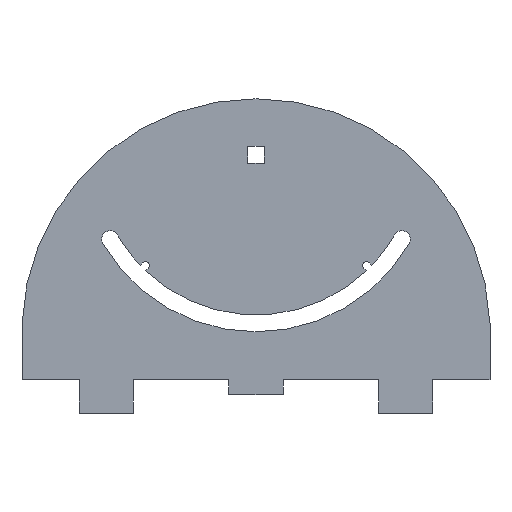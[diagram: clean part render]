
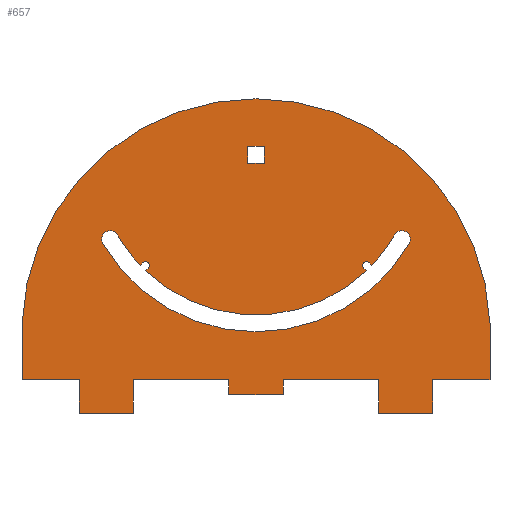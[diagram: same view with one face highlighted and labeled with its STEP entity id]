
A CAD part, front view. The second image highlights one B-rep face of the part: STEP entity #657.
In plain terms, the highlighted planar face has unit normal (0, -1, 0).
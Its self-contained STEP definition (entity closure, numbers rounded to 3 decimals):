
#15=FACE_BOUND('',#87,.T.);
#16=FACE_BOUND('',#88,.T.);
#20=CIRCLE('',#711,2.);
#22=CIRCLE('',#714,2.);
#23=CIRCLE('',#719,125.104);
#24=CIRCLE('',#720,85.476);
#25=CIRCLE('',#721,4.5);
#26=CIRCLE('',#722,94.476);
#27=CIRCLE('',#723,4.5);
#28=CIRCLE('',#724,85.476);
#29=CIRCLE('',#725,85.476);
#52=FACE_OUTER_BOUND('',#86,.T.);
#86=EDGE_LOOP('',(#458,#459,#460,#461,#462,#463,#464,#465,#466,#467,#468,
#469,#470,#471,#472,#473));
#87=EDGE_LOOP('',(#474,#475,#476,#477));
#88=EDGE_LOOP('',(#478,#479,#480,#481,#482,#483,#484,#485,#486,#487,#488,
#489));
#121=LINE('',#953,#199);
#127=LINE('',#974,#205);
#128=LINE('',#977,#206);
#131=LINE('',#983,#209);
#134=LINE('',#990,#212);
#135=LINE('',#992,#213);
#136=LINE('',#996,#214);
#137=LINE('',#998,#215);
#138=LINE('',#1000,#216);
#139=LINE('',#1002,#217);
#140=LINE('',#1004,#218);
#141=LINE('',#1006,#219);
#142=LINE('',#1008,#220);
#143=LINE('',#1010,#221);
#144=LINE('',#1012,#222);
#145=LINE('',#1014,#223);
#146=LINE('',#1016,#224);
#147=LINE('',#1018,#225);
#148=LINE('',#1019,#226);
#149=LINE('',#1022,#227);
#150=LINE('',#1024,#228);
#151=LINE('',#1026,#229);
#152=LINE('',#1027,#230);
#199=VECTOR('',#767,10.);
#205=VECTOR('',#787,10.);
#206=VECTOR('',#790,10.);
#209=VECTOR('',#795,10.);
#212=VECTOR('',#800,10.);
#213=VECTOR('',#801,10.);
#214=VECTOR('',#804,10.);
#215=VECTOR('',#805,10.);
#216=VECTOR('',#806,10.);
#217=VECTOR('',#807,10.);
#218=VECTOR('',#808,10.);
#219=VECTOR('',#809,10.);
#220=VECTOR('',#810,10.);
#221=VECTOR('',#811,10.);
#222=VECTOR('',#812,10.);
#223=VECTOR('',#813,10.);
#224=VECTOR('',#814,10.);
#225=VECTOR('',#815,10.);
#226=VECTOR('',#816,10.);
#227=VECTOR('',#817,10.);
#228=VECTOR('',#818,10.);
#229=VECTOR('',#819,10.);
#230=VECTOR('',#820,10.);
#275=VERTEX_POINT('',#947);
#277=VERTEX_POINT('',#951);
#279=VERTEX_POINT('',#957);
#282=VERTEX_POINT('',#964);
#283=VERTEX_POINT('',#966);
#285=VERTEX_POINT('',#972);
#286=VERTEX_POINT('',#976);
#288=VERTEX_POINT('',#982);
#290=VERTEX_POINT('',#988);
#291=VERTEX_POINT('',#989);
#292=VERTEX_POINT('',#991);
#293=VERTEX_POINT('',#993);
#294=VERTEX_POINT('',#995);
#295=VERTEX_POINT('',#997);
#296=VERTEX_POINT('',#999);
#297=VERTEX_POINT('',#1001);
#298=VERTEX_POINT('',#1003);
#299=VERTEX_POINT('',#1005);
#300=VERTEX_POINT('',#1007);
#301=VERTEX_POINT('',#1009);
#302=VERTEX_POINT('',#1011);
#303=VERTEX_POINT('',#1013);
#304=VERTEX_POINT('',#1015);
#305=VERTEX_POINT('',#1017);
#306=VERTEX_POINT('',#1020);
#307=VERTEX_POINT('',#1021);
#308=VERTEX_POINT('',#1023);
#309=VERTEX_POINT('',#1025);
#310=VERTEX_POINT('',#1028);
#311=VERTEX_POINT('',#1030);
#312=VERTEX_POINT('',#1032);
#313=VERTEX_POINT('',#1034);
#341=EDGE_CURVE('',#275,#277,#121,.T.);
#343=EDGE_CURVE('',#275,#279,#20,.T.);
#347=EDGE_CURVE('',#282,#283,#22,.T.);
#351=EDGE_CURVE('',#282,#285,#127,.T.);
#352=EDGE_CURVE('',#286,#283,#128,.T.);
#355=EDGE_CURVE('',#288,#279,#131,.T.);
#358=EDGE_CURVE('',#290,#291,#134,.T.);
#359=EDGE_CURVE('',#292,#290,#135,.T.);
#360=EDGE_CURVE('',#293,#292,#23,.T.);
#361=EDGE_CURVE('',#294,#293,#136,.T.);
#362=EDGE_CURVE('',#295,#294,#137,.T.);
#363=EDGE_CURVE('',#295,#296,#138,.T.);
#364=EDGE_CURVE('',#297,#296,#139,.T.);
#365=EDGE_CURVE('',#298,#297,#140,.T.);
#366=EDGE_CURVE('',#299,#298,#141,.T.);
#367=EDGE_CURVE('',#299,#300,#142,.T.);
#368=EDGE_CURVE('',#301,#300,#143,.T.);
#369=EDGE_CURVE('',#302,#301,#144,.T.);
#370=EDGE_CURVE('',#303,#302,#145,.T.);
#371=EDGE_CURVE('',#303,#304,#146,.T.);
#372=EDGE_CURVE('',#305,#304,#147,.T.);
#373=EDGE_CURVE('',#291,#305,#148,.T.);
#374=EDGE_CURVE('',#306,#307,#149,.T.);
#375=EDGE_CURVE('',#307,#308,#150,.T.);
#376=EDGE_CURVE('',#308,#309,#151,.T.);
#377=EDGE_CURVE('',#309,#306,#152,.T.);
#378=EDGE_CURVE('',#285,#310,#24,.T.);
#379=EDGE_CURVE('',#310,#311,#25,.T.);
#380=EDGE_CURVE('',#311,#312,#26,.T.);
#381=EDGE_CURVE('',#312,#313,#27,.T.);
#382=EDGE_CURVE('',#313,#288,#28,.T.);
#383=EDGE_CURVE('',#277,#286,#29,.T.);
#458=ORIENTED_EDGE('',*,*,#358,.F.);
#459=ORIENTED_EDGE('',*,*,#359,.F.);
#460=ORIENTED_EDGE('',*,*,#360,.F.);
#461=ORIENTED_EDGE('',*,*,#361,.F.);
#462=ORIENTED_EDGE('',*,*,#362,.F.);
#463=ORIENTED_EDGE('',*,*,#363,.T.);
#464=ORIENTED_EDGE('',*,*,#364,.F.);
#465=ORIENTED_EDGE('',*,*,#365,.F.);
#466=ORIENTED_EDGE('',*,*,#366,.F.);
#467=ORIENTED_EDGE('',*,*,#367,.T.);
#468=ORIENTED_EDGE('',*,*,#368,.F.);
#469=ORIENTED_EDGE('',*,*,#369,.F.);
#470=ORIENTED_EDGE('',*,*,#370,.F.);
#471=ORIENTED_EDGE('',*,*,#371,.T.);
#472=ORIENTED_EDGE('',*,*,#372,.F.);
#473=ORIENTED_EDGE('',*,*,#373,.F.);
#474=ORIENTED_EDGE('',*,*,#374,.T.);
#475=ORIENTED_EDGE('',*,*,#375,.T.);
#476=ORIENTED_EDGE('',*,*,#376,.T.);
#477=ORIENTED_EDGE('',*,*,#377,.T.);
#478=ORIENTED_EDGE('',*,*,#352,.T.);
#479=ORIENTED_EDGE('',*,*,#347,.F.);
#480=ORIENTED_EDGE('',*,*,#351,.T.);
#481=ORIENTED_EDGE('',*,*,#378,.T.);
#482=ORIENTED_EDGE('',*,*,#379,.T.);
#483=ORIENTED_EDGE('',*,*,#380,.T.);
#484=ORIENTED_EDGE('',*,*,#381,.T.);
#485=ORIENTED_EDGE('',*,*,#382,.T.);
#486=ORIENTED_EDGE('',*,*,#355,.T.);
#487=ORIENTED_EDGE('',*,*,#343,.F.);
#488=ORIENTED_EDGE('',*,*,#341,.T.);
#489=ORIENTED_EDGE('',*,*,#383,.T.);
#630=PLANE('',#718);
#657=ADVANCED_FACE('',(#52,#15,#16),#630,.F.);
#711=AXIS2_PLACEMENT_3D('',#958,#772,#773);
#714=AXIS2_PLACEMENT_3D('',#967,#780,#781);
#718=AXIS2_PLACEMENT_3D('',#987,#798,#799);
#719=AXIS2_PLACEMENT_3D('',#994,#802,#803);
#720=AXIS2_PLACEMENT_3D('',#1029,#821,#822);
#721=AXIS2_PLACEMENT_3D('',#1031,#823,#824);
#722=AXIS2_PLACEMENT_3D('',#1033,#825,#826);
#723=AXIS2_PLACEMENT_3D('',#1035,#827,#828);
#724=AXIS2_PLACEMENT_3D('',#1036,#829,#830);
#725=AXIS2_PLACEMENT_3D('',#1037,#831,#832);
#767=DIRECTION('',(-0.707,0.,-0.707));
#772=DIRECTION('center_axis',(0.,-1.,0.));
#773=DIRECTION('ref_axis',(1.,0.,0.));
#780=DIRECTION('center_axis',(0.,-1.,0.));
#781=DIRECTION('ref_axis',(0.,0.,1.));
#787=DIRECTION('',(0.707,0.,-0.707));
#790=DIRECTION('',(-0.707,0.,0.707));
#795=DIRECTION('',(0.707,0.,0.707));
#798=DIRECTION('center_axis',(0.,1.,0.));
#799=DIRECTION('ref_axis',(0.,0.,1.));
#800=DIRECTION('',(-1.,0.,0.));
#801=DIRECTION('',(0.,0.,-1.));
#802=DIRECTION('center_axis',(0.,1.,0.));
#803=DIRECTION('ref_axis',(-0.999,0.,0.041));
#804=DIRECTION('',(0.,0.,1.));
#805=DIRECTION('',(-1.,0.,0.));
#806=DIRECTION('',(0.,0.,-1.));
#807=DIRECTION('',(-1.,0.,0.));
#808=DIRECTION('',(0.,0.,-1.));
#809=DIRECTION('',(-1.,0.,0.));
#810=DIRECTION('',(0.,0.,-1.));
#811=DIRECTION('',(-1.,0.,0.));
#812=DIRECTION('',(0.,0.,-1.));
#813=DIRECTION('',(-1.,0.,0.));
#814=DIRECTION('',(0.,0.,-1.));
#815=DIRECTION('',(-1.,0.,0.));
#816=DIRECTION('',(0.,0.,-1.));
#817=DIRECTION('',(1.,0.,0.));
#818=DIRECTION('',(0.,0.,-1.));
#819=DIRECTION('',(-1.,0.,0.));
#820=DIRECTION('',(0.,0.,1.));
#821=DIRECTION('center_axis',(0.,-1.,0.));
#822=DIRECTION('ref_axis',(-0.866,0.,0.5));
#823=DIRECTION('center_axis',(0.,1.,0.));
#824=DIRECTION('ref_axis',(-0.866,0.,0.5));
#825=DIRECTION('center_axis',(0.,1.,0.));
#826=DIRECTION('ref_axis',(0.866,0.,-0.5));
#827=DIRECTION('center_axis',(0.,1.,0.));
#828=DIRECTION('ref_axis',(-0.866,0.,-0.5));
#829=DIRECTION('center_axis',(0.,-1.,0.));
#830=DIRECTION('ref_axis',(-0.866,0.,0.5));
#831=DIRECTION('center_axis',(0.,-1.,0.));
#832=DIRECTION('ref_axis',(-0.866,0.,0.5));
#947=CARTESIAN_POINT('',(-57.592,0.,-15.453));
#951=CARTESIAN_POINT('',(-58.989,0.,-16.85));
#953=CARTESIAN_POINT('',(-40.029,0.,2.11));
#957=CARTESIAN_POINT('',(-60.42,0.,-12.624));
#958=CARTESIAN_POINT('Origin',(-59.006,0.,-14.038));
#964=CARTESIAN_POINT('',(60.457,0.,-12.629));
#966=CARTESIAN_POINT('',(57.629,0.,-15.457));
#967=CARTESIAN_POINT('Origin',(59.043,0.,-14.043));
#972=CARTESIAN_POINT('',(61.855,0.,-14.026));
#974=CARTESIAN_POINT('',(42.885,0.,4.944));
#976=CARTESIAN_POINT('',(59.026,0.,-16.855));
#977=CARTESIAN_POINT('',(38.65,0.,3.521));
#982=CARTESIAN_POINT('',(-61.818,0.,-14.022));
#983=CARTESIAN_POINT('',(-41.452,0.,6.344));
#987=CARTESIAN_POINT('Origin',(0.,0.,0.));
#988=CARTESIAN_POINT('',(125.,0.,-75.));
#989=CARTESIAN_POINT('',(94.5,0.,-75.));
#990=CARTESIAN_POINT('',(125.,0.,-75.));
#991=CARTESIAN_POINT('',(125.,0.,-45.));
#992=CARTESIAN_POINT('',(125.,0.,75.));
#993=CARTESIAN_POINT('',(-125.,0.,-45.));
#994=CARTESIAN_POINT('Origin',(0.,0.,-50.104));
#995=CARTESIAN_POINT('',(-125.,0.,-75.));
#996=CARTESIAN_POINT('',(-125.,0.,-75.));
#997=CARTESIAN_POINT('',(-94.5,0.,-75.));
#998=CARTESIAN_POINT('',(125.,0.,-75.));
#999=CARTESIAN_POINT('',(-94.5,0.,-93.));
#1000=CARTESIAN_POINT('',(-94.5,0.,-75.));
#1001=CARTESIAN_POINT('',(-65.5,0.,-93.));
#1002=CARTESIAN_POINT('',(-65.,0.,-93.));
#1003=CARTESIAN_POINT('',(-65.5,0.,-75.));
#1004=CARTESIAN_POINT('',(-65.5,0.,-75.));
#1005=CARTESIAN_POINT('',(-14.5,0.,-75.));
#1006=CARTESIAN_POINT('',(125.,0.,-75.));
#1007=CARTESIAN_POINT('',(-14.5,0.,-83.));
#1008=CARTESIAN_POINT('',(-14.5,0.,-75.));
#1009=CARTESIAN_POINT('',(14.5,0.,-83.));
#1010=CARTESIAN_POINT('',(14.5,0.,-83.));
#1011=CARTESIAN_POINT('',(14.5,0.,-75.));
#1012=CARTESIAN_POINT('',(14.5,0.,-75.));
#1013=CARTESIAN_POINT('',(65.5,0.,-75.));
#1014=CARTESIAN_POINT('',(125.,0.,-75.));
#1015=CARTESIAN_POINT('',(65.5,0.,-93.));
#1016=CARTESIAN_POINT('',(65.5,0.,-75.));
#1017=CARTESIAN_POINT('',(94.5,0.,-93.));
#1018=CARTESIAN_POINT('',(95.,0.,-93.));
#1019=CARTESIAN_POINT('',(94.5,0.,-75.));
#1020=CARTESIAN_POINT('',(-4.5,0.,49.5));
#1021=CARTESIAN_POINT('',(4.5,0.,49.5));
#1022=CARTESIAN_POINT('',(-2.25,0.,49.5));
#1023=CARTESIAN_POINT('',(4.5,0.,40.5));
#1024=CARTESIAN_POINT('',(4.5,0.,24.75));
#1025=CARTESIAN_POINT('',(-4.5,0.,40.5));
#1026=CARTESIAN_POINT('',(2.25,0.,40.5));
#1027=CARTESIAN_POINT('',(-4.5,0.,20.25));
#1028=CARTESIAN_POINT('',(74.045,0.,2.25));
#1029=CARTESIAN_POINT('Origin',(0.021,0.,44.988));
#1030=CARTESIAN_POINT('',(81.839,0.,-2.25));
#1031=CARTESIAN_POINT('Origin',(77.942,0.,0.));
#1032=CARTESIAN_POINT('',(-81.798,0.,-2.25));
#1033=CARTESIAN_POINT('Origin',(0.021,0.,44.988));
#1034=CARTESIAN_POINT('',(-74.004,0.,2.25));
#1035=CARTESIAN_POINT('Origin',(-77.901,0.,0.));
#1036=CARTESIAN_POINT('Origin',(0.021,0.,44.988));
#1037=CARTESIAN_POINT('Origin',(0.021,0.,44.988));
